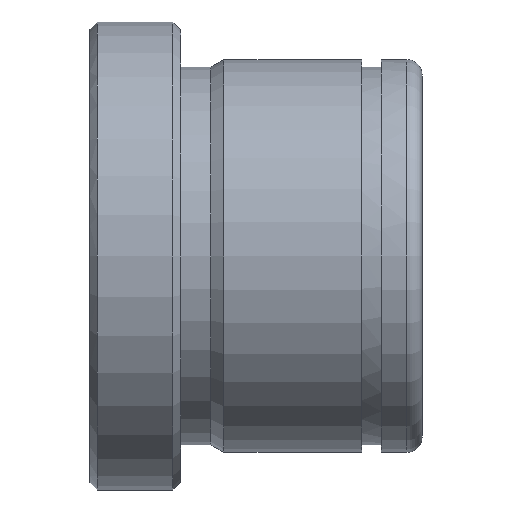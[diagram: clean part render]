
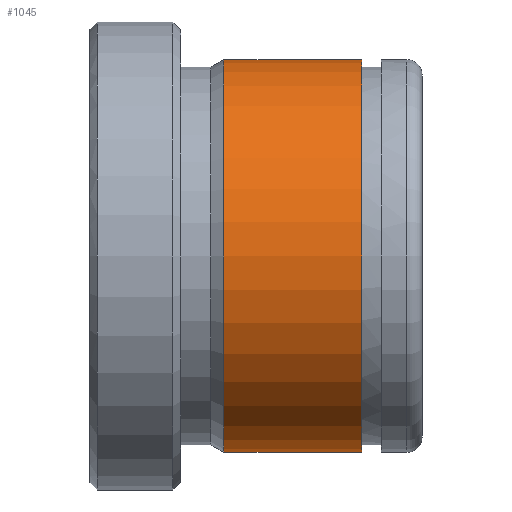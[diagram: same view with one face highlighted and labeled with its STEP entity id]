
A CAD part, front view. The second image highlights one B-rep face of the part: STEP entity #1045.
In plain terms, the highlighted cylindrical face has radius 13 mm (diameter 26 mm), a partial arc.
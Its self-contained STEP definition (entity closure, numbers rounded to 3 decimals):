
#851=CARTESIAN_POINT('Vertex',(8.866,0.,-13.)) ;
#858=CARTESIAN_POINT('Vertex',(8.866,0.,13.)) ;
#887=CARTESIAN_POINT('Axis2P3D Location',(8.866,0.,0.)) ;
#891=CARTESIAN_POINT('Vertex',(8.866,-13.,0.)) ;
#894=CARTESIAN_POINT('Axis2P3D Location',(8.866,0.,0.)) ;
#985=CARTESIAN_POINT('Line Origine',(44.,0.,13.)) ;
#989=CARTESIAN_POINT('Vertex',(18.,0.,13.)) ;
#1003=CARTESIAN_POINT('Vertex',(18.,0.,-13.)) ;
#1006=CARTESIAN_POINT('Line Origine',(44.,0.,-13.)) ;
#1020=CARTESIAN_POINT('Axis2P3D Location',(44.,0.,0.)) ;
#1025=CARTESIAN_POINT('Axis2P3D Location',(18.,0.,0.)) ;
#1029=CARTESIAN_POINT('Vertex',(18.,-13.,0.)) ;
#1032=CARTESIAN_POINT('Axis2P3D Location',(18.,0.,0.)) ;
#888=DIRECTION('Axis2P3D Direction',(1.,0.,-0.)) ;
#895=DIRECTION('Axis2P3D Direction',(1.,0.,-0.)) ;
#986=DIRECTION('Vector Direction',(-1.,0.,0.)) ;
#1007=DIRECTION('Vector Direction',(-1.,0.,0.)) ;
#1021=DIRECTION('Axis2P3D Direction',(-1.,-0.,-0.)) ;
#1022=DIRECTION('Axis2P3D XDirection',(0.,0.,-1.)) ;
#1026=DIRECTION('Axis2P3D Direction',(-1.,-0.,-0.)) ;
#1033=DIRECTION('Axis2P3D Direction',(-1.,-0.,-0.)) ;
#889=AXIS2_PLACEMENT_3D('Circle Axis2P3D',#887,#888,$) ;
#896=AXIS2_PLACEMENT_3D('Circle Axis2P3D',#894,#895,$) ;
#1023=AXIS2_PLACEMENT_3D('Cylinder Axis2P3D',#1020,#1021,#1022) ;
#1027=AXIS2_PLACEMENT_3D('Circle Axis2P3D',#1025,#1026,$) ;
#1034=AXIS2_PLACEMENT_3D('Circle Axis2P3D',#1032,#1033,$) ;
#1038=ORIENTED_EDGE('',*,*,#1010,.T.) ;
#1039=ORIENTED_EDGE('',*,*,#1031,.F.) ;
#1040=ORIENTED_EDGE('',*,*,#1036,.F.) ;
#1041=ORIENTED_EDGE('',*,*,#991,.T.) ;
#1042=ORIENTED_EDGE('',*,*,#898,.T.) ;
#1043=ORIENTED_EDGE('',*,*,#893,.T.) ;
#987=VECTOR('Line Direction',#986,1.) ;
#1008=VECTOR('Line Direction',#1007,1.) ;
#1045=ADVANCED_FACE('553-20X22',(#1044),#1024,.T.) ;
#890=CIRCLE('generated circle',#889,13.) ;
#897=CIRCLE('generated circle',#896,13.) ;
#1028=CIRCLE('generated circle',#1027,13.) ;
#1035=CIRCLE('generated circle',#1034,13.) ;
#1024=CYLINDRICAL_SURFACE('generated cylinder',#1023,13.) ;
#893=EDGE_CURVE('',#892,#852,#890,.T.) ;
#898=EDGE_CURVE('',#859,#892,#897,.T.) ;
#991=EDGE_CURVE('',#990,#859,#988,.T.) ;
#1010=EDGE_CURVE('',#852,#1004,#1009,.F.) ;
#1031=EDGE_CURVE('',#1030,#1004,#1028,.F.) ;
#1036=EDGE_CURVE('',#990,#1030,#1035,.F.) ;
#1037=EDGE_LOOP('',(#1038,#1039,#1040,#1041,#1042,#1043)) ;
#1044=FACE_OUTER_BOUND('',#1037,.T.) ;
#988=LINE('Line',#985,#987) ;
#1009=LINE('Line',#1006,#1008) ;
#852=VERTEX_POINT('',#851) ;
#859=VERTEX_POINT('',#858) ;
#892=VERTEX_POINT('',#891) ;
#990=VERTEX_POINT('',#989) ;
#1004=VERTEX_POINT('',#1003) ;
#1030=VERTEX_POINT('',#1029) ;
